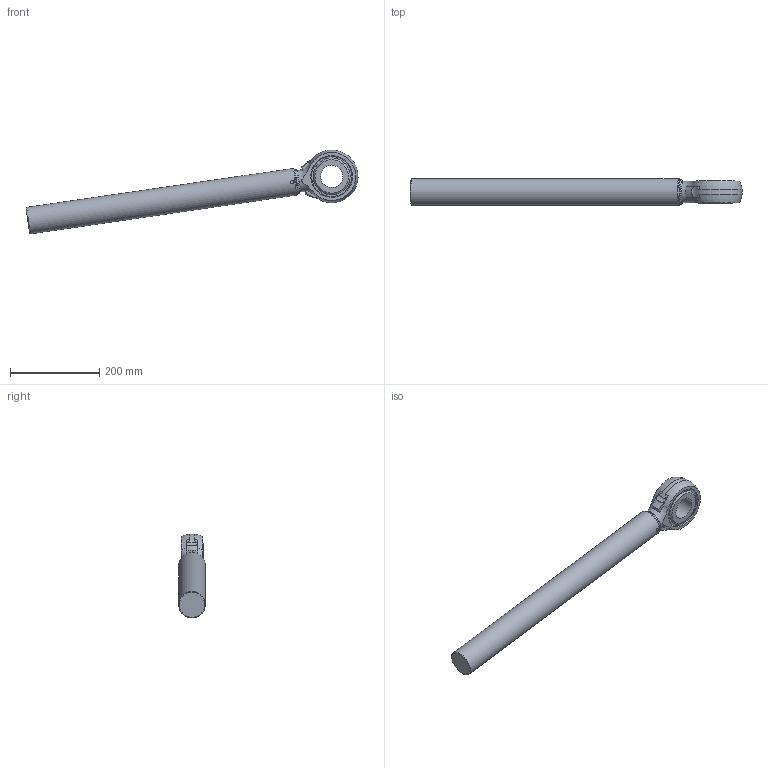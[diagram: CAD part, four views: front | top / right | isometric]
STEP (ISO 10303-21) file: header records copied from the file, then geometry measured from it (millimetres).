
FILE_DESCRIPTION (( 'STEP AP214' ), '1' );
FILE_NAME ('IRB6740_240kg-320_OC_00_ROD_CAD.step', '2026-05-13T05:03:37', ( '' ), ( '' ), 'SwSTEP 2.0', 'SolidWorks 2024', '' );
FILE_SCHEMA (( 'AUTOMOTIVE_DESIGN' ));
Length unit declared in the file: millimetre
Products named in the file (1): IRB6740_240kg-320_OC_00_ROD_CAD
Bounding box: 743.98 x 60 x 187.77 mm (x, y, z)
Volume: 2184092.5 mm3; surface area: 162870.8 mm2
Topology: 1 solids, 1 shells, 45 faces, 103 edges, 65 vertices
Faces by surface type: plane 16, cylinder 13, cone 8, torus 6, sphere 2
Full cylindrical faces by diameter (mm): 48 x1, 50 x1, 55 x1, 60 x1, 63 x1, 90.1 x1
Entity records: 1623 total; most frequent: CARTESIAN_POINT 662, DIRECTION 186, ORIENTED_EDGE 174, AXIS2_PLACEMENT_3D 89, EDGE_CURVE 87, EDGE_LOOP 66, VERTEX_POINT 63, FACE_OUTER_BOUND 57
